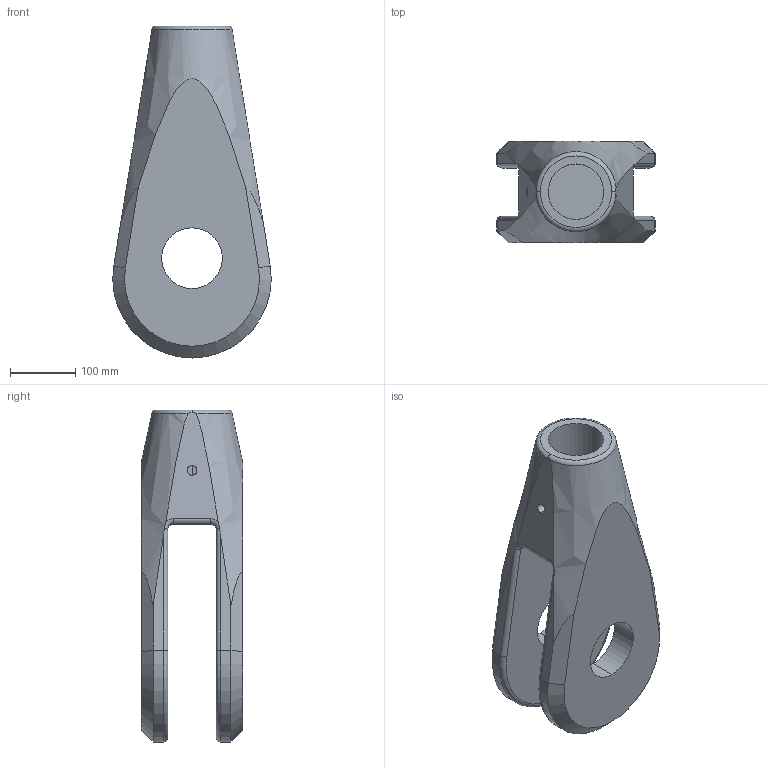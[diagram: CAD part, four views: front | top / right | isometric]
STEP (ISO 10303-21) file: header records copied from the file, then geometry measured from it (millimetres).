
FILE_DESCRIPTION (( 'STEP AP203' ), '1' );
FILE_NAME ('Gabelkopf M85.STEP', '2018-02-20T06:40:42', ( 'install' ), ( 'Hewlett-Packard Company' ), 'SwSTEP 2.0', 'SolidWorks 2017', '' );
FILE_SCHEMA (( 'CONFIG_CONTROL_DESIGN' ));
Length unit declared in the file: millimetre
Products named in the file (1): Gabelkopf M85
Bounding box: 242.98 x 155.4 x 509 mm (x, y, z)
Volume: 7023172.9 mm3; surface area: 467751.4 mm2
Topology: 1 solids, 1 shells, 51 faces, 127 edges, 78 vertices
Faces by surface type: cylinder 20, plane 17, cone 5, torus 5, bspline 4
Entity records: 2219 total; most frequent: CARTESIAN_POINT 983, ORIENTED_EDGE 254, DIRECTION 230, EDGE_CURVE 127, AXIS2_PLACEMENT_3D 93, VERTEX_POINT 78, EDGE_LOOP 57, FACE_OUTER_BOUND 51
